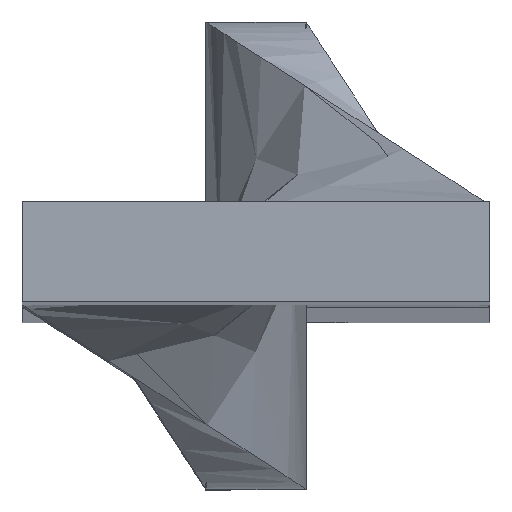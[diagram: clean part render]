
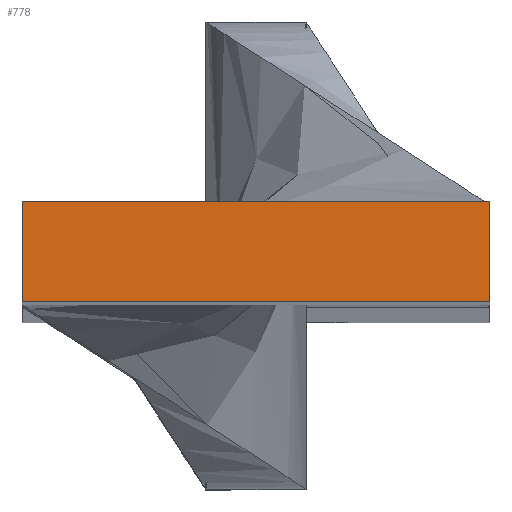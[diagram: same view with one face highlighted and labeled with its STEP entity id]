
A CAD part, top view. The second image highlights one B-rep face of the part: STEP entity #778.
In plain terms, the highlighted planar face has unit normal (0, 0, 1).
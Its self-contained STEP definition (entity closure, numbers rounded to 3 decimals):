
#127 = FACE_OUTER_BOUND ( 'NONE', #683, .T. ) ;
#128 = CARTESIAN_POINT ( 'NONE',  ( 7., -1.5, 358.5 ) ) ;
#138 = EDGE_CURVE ( 'NONE', #782, #640, #438, .T. ) ;
#161 = LINE ( 'NONE', #690, #489 ) ;
#163 = VECTOR ( 'NONE', #660, 1000. ) ;
#181 = VECTOR ( 'NONE', #539, 1000. ) ;
#214 = VECTOR ( 'NONE', #722, 1000. ) ;
#259 = LINE ( 'NONE', #661, #163 ) ;
#270 = LINE ( 'NONE', #528, #181 ) ;
#332 = VERTEX_POINT ( 'NONE', #450 ) ;
#340 = EDGE_CURVE ( 'NONE', #601, #782, #270, .T. ) ;
#438 = LINE ( 'NONE', #128, #214 ) ;
#450 = CARTESIAN_POINT ( 'NONE',  ( -7., 1.5, 358.5 ) ) ;
#469 = ORIENTED_EDGE ( 'NONE', *, *, #138, .F. ) ;
#479 = ORIENTED_EDGE ( 'NONE', *, *, #600, .F. ) ;
#489 = VECTOR ( 'NONE', #695, 1000. ) ;
#516 = EDGE_CURVE ( 'NONE', #640, #332, #259, .T. ) ;
#523 = AXIS2_PLACEMENT_3D ( 'NONE', #837, #777, #912 ) ;
#528 = CARTESIAN_POINT ( 'NONE',  ( 7., 1.5, 358.5 ) ) ;
#539 = DIRECTION ( 'NONE',  ( 0., -1., 0. ) ) ;
#600 = EDGE_CURVE ( 'NONE', #332, #601, #161, .T. ) ;
#601 = VERTEX_POINT ( 'NONE', #686 ) ;
#640 = VERTEX_POINT ( 'NONE', #700 ) ;
#660 = DIRECTION ( 'NONE',  ( 0., 1., 0. ) ) ;
#661 = CARTESIAN_POINT ( 'NONE',  ( -7., -1.5, 358.5 ) ) ;
#662 = ORIENTED_EDGE ( 'NONE', *, *, #340, .F. ) ;
#683 = EDGE_LOOP ( 'NONE', ( #817, #469, #662, #479 ) ) ;
#686 = CARTESIAN_POINT ( 'NONE',  ( 7., 1.5, 358.5 ) ) ;
#690 = CARTESIAN_POINT ( 'NONE',  ( -7., 1.5, 358.5 ) ) ;
#695 = DIRECTION ( 'NONE',  ( 1., 0., 0. ) ) ;
#700 = CARTESIAN_POINT ( 'NONE',  ( -7., -1.5, 358.5 ) ) ;
#722 = DIRECTION ( 'NONE',  ( -1., 0., 0. ) ) ;
#777 = DIRECTION ( 'NONE',  ( 0., 0., -1. ) ) ;
#778 = ADVANCED_FACE ( 'NONE', ( #127 ), #933, .F. ) ;
#782 = VERTEX_POINT ( 'NONE', #941 ) ;
#817 = ORIENTED_EDGE ( 'NONE', *, *, #516, .F. ) ;
#837 = CARTESIAN_POINT ( 'NONE',  ( 0., 0., 358.5 ) ) ;
#912 = DIRECTION ( 'NONE',  ( -1., 0., 0. ) ) ;
#933 = PLANE ( 'NONE',  #523 ) ;
#941 = CARTESIAN_POINT ( 'NONE',  ( 7., -1.5, 358.5 ) ) ;
